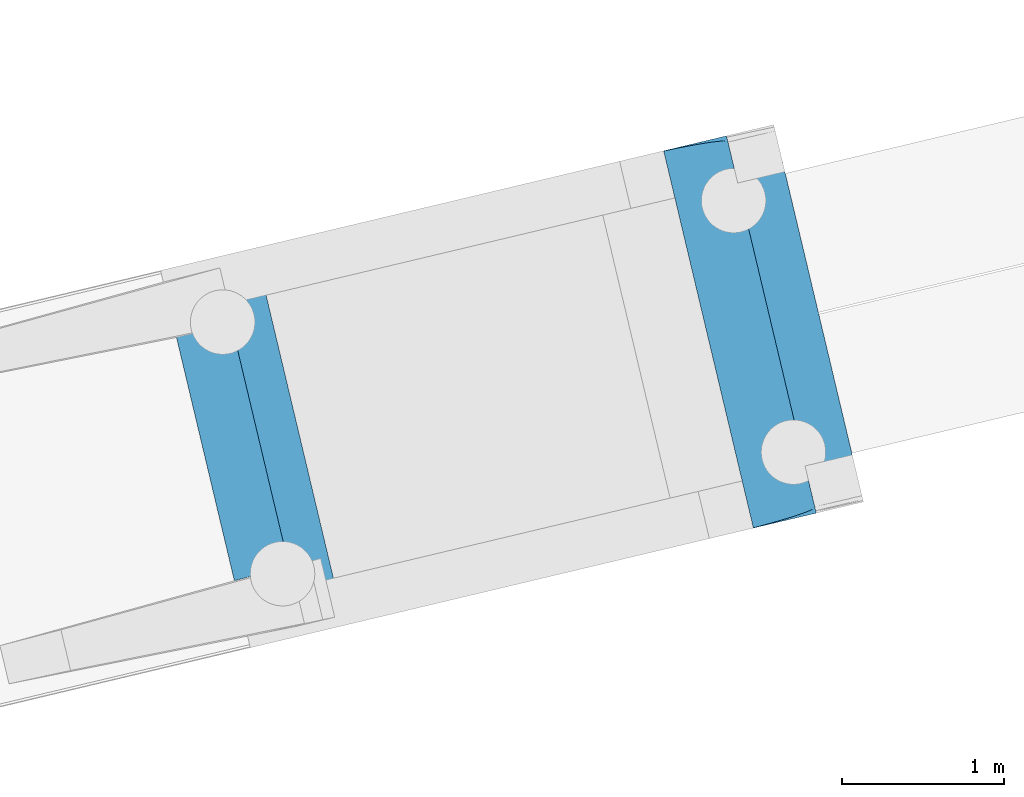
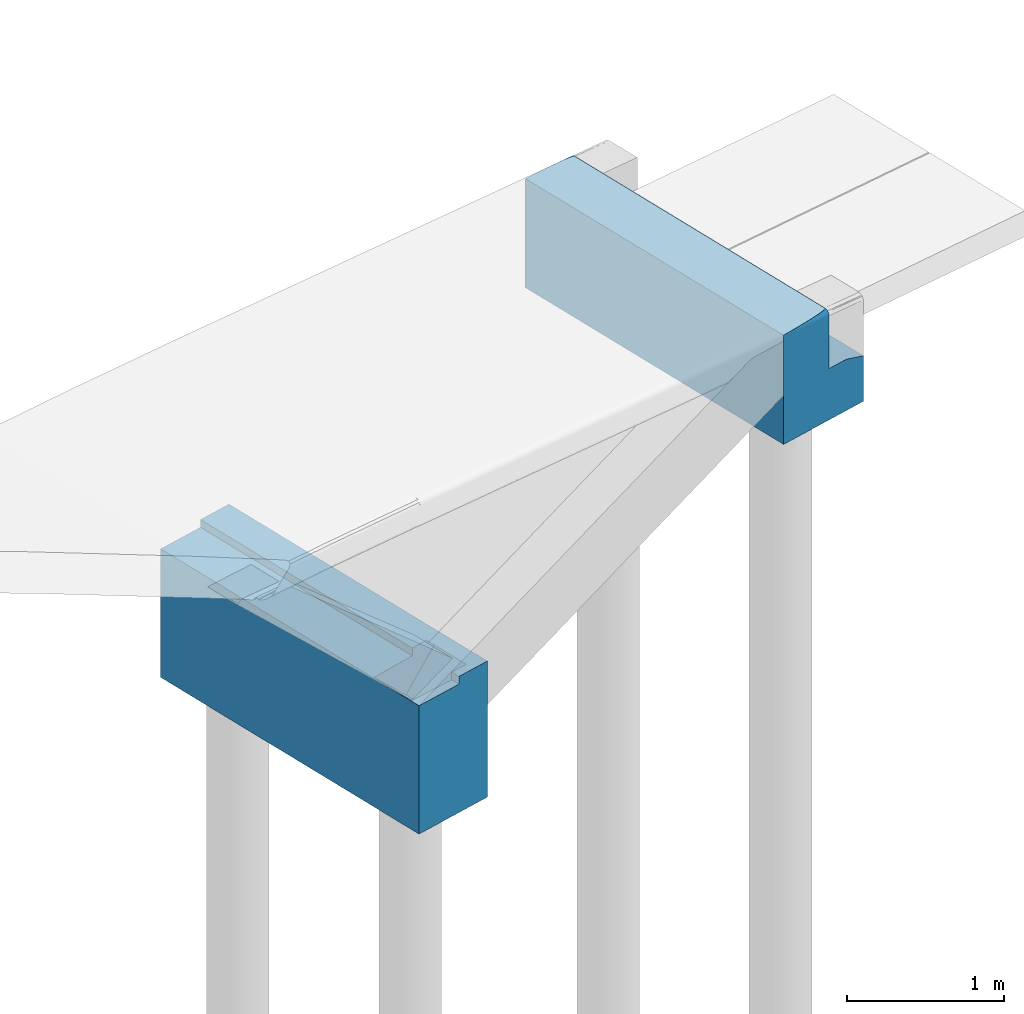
# One storey, part 6 of 15: 2 footings.
"""IFC2X3 building model written with IfcOpenShell, lengths in millimetres."""

from ifc_helpers import new_model, entity, si_unit, converted_unit, derived_unit, direction, frame, origin, place, context, subcontext, project, spatial, faceted_brep, material, element, save


model = new_model("IFC2X3")

# Units and contexts
model_context = context("Model", 3, precision=0.01, world=origin(), true_north=direction((6.12303176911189e-17, 1.0)))
body_context = subcontext(model_context, "Body", "Model", "MODEL_VIEW")
ifc_project = project(units=[si_unit("LENGTHUNIT", "METRE", prefix="MILLI"), si_unit("AREAUNIT", "SQUARE_METRE"), si_unit("VOLUMEUNIT", "CUBIC_METRE"), converted_unit("PLANEANGLEUNIT", "DEGREE", entity("IfcRatioMeasure", 0.0174532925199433), si_unit("PLANEANGLEUNIT", "RADIAN"), dimensions=[0, 0, 0, 0, 0, 0, 0]), si_unit("MASSUNIT", "GRAM", prefix="KILO"), derived_unit("MASSDENSITYUNIT", [(si_unit("MASSUNIT", "GRAM", prefix="KILO"), 1), (si_unit("LENGTHUNIT", "METRE"), -3)]), si_unit("TIMEUNIT", "SECOND"), si_unit("FREQUENCYUNIT", "HERTZ"), si_unit("THERMODYNAMICTEMPERATUREUNIT", "DEGREE_CELSIUS"), derived_unit("THERMALTRANSMITTANCEUNIT", [(si_unit("MASSUNIT", "GRAM", prefix="KILO"), 1), (si_unit("THERMODYNAMICTEMPERATUREUNIT", "KELVIN"), -1), (si_unit("TIMEUNIT", "SECOND"), -3)]), derived_unit("VOLUMETRICFLOWRATEUNIT", [(si_unit("LENGTHUNIT", "METRE"), 3), (si_unit("TIMEUNIT", "SECOND"), -1)]), si_unit("ELECTRICCURRENTUNIT", "AMPERE"), si_unit("ELECTRICVOLTAGEUNIT", "VOLT"), si_unit("POWERUNIT", "WATT"), si_unit("FORCEUNIT", "NEWTON", prefix="KILO"), si_unit("ILLUMINANCEUNIT", "LUX"), si_unit("LUMINOUSFLUXUNIT", "LUMEN"), si_unit("LUMINOUSINTENSITYUNIT", "CANDELA"), derived_unit("USERDEFINED", [(si_unit("MASSUNIT", "GRAM", prefix="KILO"), -1), (si_unit("LENGTHUNIT", "METRE"), -2), (si_unit("TIMEUNIT", "SECOND"), 3), (si_unit("LUMINOUSFLUXUNIT", "LUMEN"), 1)]), derived_unit("LINEARVELOCITYUNIT", [(si_unit("LENGTHUNIT", "METRE"), 1), (si_unit("TIMEUNIT", "SECOND"), -1)]), si_unit("PRESSUREUNIT", "PASCAL"), derived_unit("USERDEFINED", [(si_unit("LENGTHUNIT", "METRE"), -2), (si_unit("MASSUNIT", "GRAM", prefix="KILO"), 1), (si_unit("TIMEUNIT", "SECOND"), -2)])], contexts=[model_context])

# Site, building, storey
site_placement = place(None, origin())
site = spatial("IfcSite", under=ifc_project, at=site_placement, Name="Bruggen Achterburggracht Machinesloot", CompositionType="ELEMENT")
building_placement = place(site_placement, origin())
building = spatial("IfcBuilding", under=site, at=building_placement, Name="Bruggen Achterburggracht Machinesloot", CompositionType="ELEMENT")
storey_placement = place(building_placement, origin())
storey = spatial("IfcBuildingStorey", under=building, at=storey_placement, Name="00 begane grond", CompositionType="ELEMENT", Elevation=2.70716782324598e-13)

# Footings
ifc_material = material(Name="00_PBT_MAT_beton t.p.g.")
footing_1_placement = place(storey_placement, frame((-23039.5014142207, -45408.6213164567, -855.0)))
element("IfcFooting", 1, at=footing_1_placement, inside=storey, material=ifc_material, Name="319-150_funderingsbalk tpv stootplaat:Brug 3_700x850", ObjectType="319-150_funderingsbalk tpv stootplaat:Brug 3_700x850", PredefinedType="NOTDEFINED", context=body_context, shape_type="Brep", body=[
    faceted_brep([(1092.04644876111, 128.869851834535, 400.0), (946.117941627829, 94.1586028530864, 400.0), (946.117941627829, 94.1586028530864, 810.513717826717), (771.292613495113, 52.573818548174, 823.079779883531), (556.975255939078, 1.59527223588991, 838.484442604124), (556.975255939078, 1.59527223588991, 0.0), (1237.97495589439, 163.581100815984, 0.0), (1237.97495589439, 163.581100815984, 355.0), (938.471857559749, 126.303272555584, 850.0), (938.948648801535, 124.298808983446, 849.380996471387), (939.06784661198, 123.797693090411, 849.226245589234), (939.18704442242, 123.296577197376, 849.07149470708), (939.306242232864, 122.795461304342, 848.916743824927), (939.425440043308, 122.294345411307, 848.761992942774), (939.701607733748, 121.133317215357, 848.403452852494), (939.977775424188, 119.972289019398, 848.044912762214), (940.530110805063, 117.650232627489, 847.327832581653), (940.99525409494, 115.694737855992, 846.163851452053), (941.460397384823, 113.739243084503, 844.999870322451), (942.390683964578, 109.828253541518, 842.671908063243), (943.953318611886, 103.258828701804, 836.283114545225), (945.133810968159, 98.2959566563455, 828.50571711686), (945.868549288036, 95.2070656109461, 819.75880686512), (460.160081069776, 2137.15927847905, 400.0), (390.737957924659, 2429.01471698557, 400.0), (390.737957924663, 2429.01471698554, 810.511909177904), (390.987442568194, 2427.96586617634, 819.758685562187), (391.722447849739, 2424.8758528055, 828.507007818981), (392.903352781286, 2419.91124626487, 836.285291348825), (394.466499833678, 2413.3396672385, 842.674242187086), (395.397063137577, 2409.42751432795, 845.001850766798), (395.862344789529, 2407.47143787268, 846.165655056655), (396.327626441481, 2405.51536141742, 847.329459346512), (396.880280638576, 2403.19196469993, 848.046332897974), (397.156607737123, 2402.03026634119, 848.404769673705), (397.432934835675, 2400.86856798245, 848.763206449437), (397.552118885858, 2400.36750993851, 848.917805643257), (397.671302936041, 2399.86645189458, 849.072404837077), (397.790486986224, 2399.36539385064, 849.227004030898), (397.909671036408, 2398.8643358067, 849.381603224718), (398.386407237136, 2396.86010363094, 850.0), (460.160081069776, 2137.15927847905, 850.0), (682.59497219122, 2498.43721494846, 355.0), (682.59497219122, 2498.43721494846, 0.0), (1.59527223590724, 2336.45138636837, 0.0), (1.59527223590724, 2336.45138636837, 838.482633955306), (215.912658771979, 2387.42993957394, 823.077969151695), (536.666465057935, 2463.72596596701, 400.0), (856.479304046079, 91.1082536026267, 850.0), (875.049242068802, 97.9868209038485, 850.0), (914.24821894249, 113.720331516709, 850.0), (931.761670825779, 122.577747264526, 850.0), (893.619180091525, 104.865388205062, 850.0), (907.371872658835, 110.768683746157, 850.0), (390.725795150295, 2397.16710092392, 850.0), (389.206943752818, 2397.22796854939, 850.0), (387.688092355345, 2397.28883617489, 850.0), (384.650389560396, 2397.41057142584, 850.0), (381.612686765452, 2397.53230667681, 850.0), (378.574983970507, 2397.65404192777, 850.0), (371.108562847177, 2397.19441953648, 850.0), (363.642141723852, 2396.73479714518, 850.0), (348.709299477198, 2395.8155523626, 850.0), (329.033702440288, 2393.59759942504, 850.0), (309.358105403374, 2391.37964648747, 850.0), (261.270792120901, 2384.43080014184, 850.0), (205.363117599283, 2375.10134472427, 850.0), (142.699768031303, 2363.56894711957, 850.0), (74.4740823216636, 2350.05322627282, 850.0), (1.98532655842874, 2334.81157084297, 850.0), (556.585326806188, 3.23456145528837, 850.0), (628.16115562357, 22.2600890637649, 850.0), (695.155842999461, 40.9075757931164, 850.0), (756.294055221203, 58.822041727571, 850.0), (810.411944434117, 75.6624609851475, 850.0), (556.877254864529, 2.00727557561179, 844.303833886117), (1.69330494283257, 2336.03925004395, 844.302959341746), (752.017845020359, 2206.57862471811, 355.0), (606.088963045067, 2171.86895159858, 400.0), (189.869294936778, 2380.25303888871, 833.677402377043), (744.811475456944, 47.2566776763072, 833.677525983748), (930.432032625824, 121.839526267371, 850.0), (929.102394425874, 121.101305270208, 850.0), (926.443118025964, 119.624863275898, 850.0), (923.783841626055, 118.148421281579, 850.0), (921.124565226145, 116.67197928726, 850.0)], [[[0, 1, 2, 3, 4, 5, 6, 7]], [[8, 9, 10, 11, 12, 13, 14, 15, 16, 17, 18, 19, 20, 21, 22, 2, 1, 23, 24, 25, 26, 27, 28, 29, 30, 31, 32, 33, 34, 35, 36, 37, 38, 39, 40, 41]], [[42, 43, 44, 45, 46, 25, 24, 47]], [[8, 48, 49]], [[50, 51, 8]], [[8, 52, 53]], [[48, 8, 41, 40, 54, 55, 56, 57, 58, 59, 60, 61, 62, 63, 64, 65, 66, 67, 68, 69, 70, 71, 72, 73, 74]], [[75, 70, 69, 76, 45, 44, 5, 4]], [[6, 5, 44, 43]], [[7, 6, 43, 42, 77]], [[0, 7, 77, 42, 47, 78]], [[1, 0, 78, 47, 24, 23]], [[46, 76, 79]], [[39, 38, 37, 36, 35, 34, 33, 59, 58, 57, 56, 55, 54, 40]], [[68, 79, 69]], [[79, 68, 27]], [[76, 46, 45]], [[27, 67, 28]], [[26, 79, 27]], [[67, 27, 68]], [[66, 65, 28]], [[31, 63, 62]], [[31, 30, 63]], [[65, 64, 29]], [[62, 32, 31]], [[28, 65, 29]], [[61, 33, 32]], [[29, 64, 30]], [[32, 62, 61]], [[33, 61, 60, 59]], [[30, 64, 63]], [[66, 28, 67]], [[79, 76, 69]], [[25, 46, 26]], [[46, 79, 26]], [[80, 75, 3]], [[51, 81, 82, 83, 84, 85, 15, 14, 13, 12, 11, 10, 9, 8]], [[70, 80, 71]], [[21, 71, 80]], [[4, 3, 75]], [[20, 72, 21]], [[21, 80, 22]], [[71, 21, 72]], [[20, 74, 73]], [[17, 16, 52]], [[52, 49, 17]], [[19, 48, 74]], [[19, 74, 20]], [[16, 15, 53]], [[18, 48, 19]], [[49, 18, 17]], [[53, 52, 16]], [[85, 50, 53, 15]], [[49, 48, 18]], [[72, 20, 73]], [[70, 75, 80]], [[22, 3, 2]], [[22, 80, 3]], [[8, 49, 52]], [[8, 53, 50]], [[50, 84, 83, 82, 81, 51]], [[50, 85, 84]]]),
])
footing_2_placement = place(storey_placement, frame((-26151.0418827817, -46147.5607198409, -2350.0)))
element("IfcFooting", 2, at=footing_2_placement, inside=storey, material=ifc_material, Name="16_PBT_SF_funderingsbalk enkele sponning:Brug 3_600x1000", ObjectType="16_PBT_SF_funderingsbalk enkele sponning:Brug 3_600x1000", PredefinedType="NOTDEFINED", context=body_context, shape_type="Brep", body=[
    faceted_brep([(895.864099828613, 80.9905373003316, 1000.0), (555.363684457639, 0.0, 1000.0), (555.363684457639, 0.0, 0.0), (1139.07868223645, 138.840921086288, 0.0), (1139.07868223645, 138.840921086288, 1060.0), (895.864099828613, 80.9905373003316, 1060.0), (880.125981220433, 147.156735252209, 1060.0), (880.371615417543, 146.124039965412, 1000.0), (0.0, 2334.85999158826, 0.0), (0.0, 2334.85999158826, 1000.0), (340.500415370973, 2415.85052888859, 1000.0), (340.500415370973, 2415.85052888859, 1060.0), (583.714997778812, 2473.70091267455, 1060.0), (583.714997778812, 2473.70091267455, 0.0), (545.701509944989, 73.317518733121, 1000.0), (464.046903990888, 416.615633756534, 1000.0), (795.655911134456, 502.285802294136, 1000.0), (409.91485672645, 2124.01833586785, 1000.0), (1069.66524166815, 430.668906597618, 1060.0), (653.128968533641, 2181.87069815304, 1060.0), (409.914789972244, 2124.01861651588, 1060.0), (795.90154529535, 501.253107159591, 1060.0), (918.144361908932, 532.83416339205, 1060.0), (1003.49536529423, 173.995390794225, 1060.0), (991.027028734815, 552.862826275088, 994.334968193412), (745.154820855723, 494.38129849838, 718.526889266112), (831.718431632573, 130.444395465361, 718.526889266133), (1077.59063951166, 188.925923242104, 994.334968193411)], [[[0, 1, 2, 3, 4, 5]], [[0, 5, 6, 7]], [[8, 9, 10, 11, 12, 13]], [[1, 0, 7, 14, 15, 16, 17, 10, 9]], [[5, 4, 18, 19, 12, 11, 20, 21, 22, 23, 6]], [[4, 3, 13, 12, 19, 18]], [[8, 13, 3, 2]], [[2, 1, 9, 8]], [[24, 25, 26, 27]], [[25, 24, 22, 21, 16, 15]], [[24, 27, 23, 22]], [[27, 26, 14, 7, 6, 23]], [[26, 25, 15, 14]], [[11, 10, 17, 16, 21, 20]]]),
])

save(model, "model.ifc")
